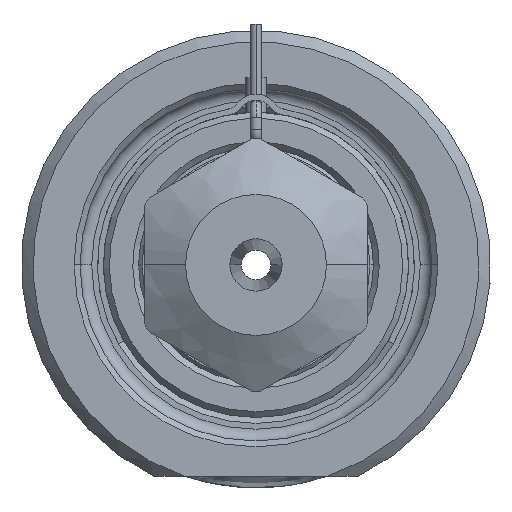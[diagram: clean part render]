
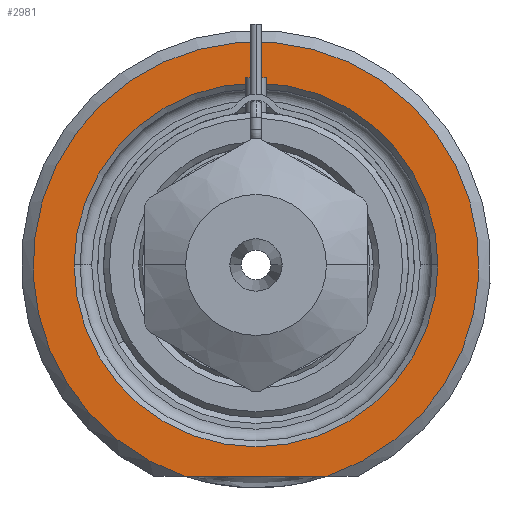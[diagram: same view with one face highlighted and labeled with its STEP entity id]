
A CAD part, front view. The second image highlights one B-rep face of the part: STEP entity #2981.
In plain terms, the highlighted planar face has unit normal (0, -1, 0).
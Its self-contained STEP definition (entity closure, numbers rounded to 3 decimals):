
#1=DIRECTION('',(1.,0.,0.));
#2=VECTOR('',#1,12.166);
#3=CARTESIAN_POINT('',(-6.083,0.,-18.));
#4=LINE('',#3,#2);
#5=CARTESIAN_POINT('',(0.,0.,0.));
#6=DIRECTION('',(0.,1.,0.));
#7=DIRECTION('',(-1.,0.,0.));
#8=AXIS2_PLACEMENT_3D('',#5,#6,#7);
#10=CARTESIAN_POINT('',(0.,0.,0.));
#11=DIRECTION('',(0.,1.,0.));
#12=DIRECTION('',(1.,0.,0.));
#13=AXIS2_PLACEMENT_3D('',#10,#11,#12);
#264=CARTESIAN_POINT('',(0.,0.,0.));
#265=DIRECTION('',(0.,-1.,0.));
#266=DIRECTION('',(0.32,0.,-0.947));
#267=AXIS2_PLACEMENT_3D('',#264,#265,#266);
#2508=CARTESIAN_POINT('',(-15.5,0.,0.));
#2509=CARTESIAN_POINT('',(15.5,0.,0.));
#2510=VERTEX_POINT('',#2508);
#2511=VERTEX_POINT('',#2509);
#2566=CARTESIAN_POINT('',(-6.083,0.,-18.));
#2567=CARTESIAN_POINT('',(6.083,0.,-18.));
#2568=VERTEX_POINT('',#2566);
#2569=VERTEX_POINT('',#2567);
#2964=CARTESIAN_POINT('',(0.,0.,0.));
#2965=DIRECTION('',(0.,-1.,0.));
#2966=DIRECTION('',(1.,0.,0.));
#2967=AXIS2_PLACEMENT_3D('',#2964,#2965,#2966);
#2968=PLANE('',#2967);
#2970=ORIENTED_EDGE('',*,*,#2969,.F.);
#2972=ORIENTED_EDGE('',*,*,#2971,.F.);
#2973=EDGE_LOOP('',(#2970,#2972));
#2974=FACE_OUTER_BOUND('',#2973,.F.);
#2976=ORIENTED_EDGE('',*,*,#2975,.F.);
#2978=ORIENTED_EDGE('',*,*,#2977,.F.);
#2979=EDGE_LOOP('',(#2976,#2978));
#2980=FACE_BOUND('',#2979,.F.);
#2981=ADVANCED_FACE('',(#2974,#2980),#2968,.T.);
#9=CIRCLE('',#8,15.5);
#14=CIRCLE('',#13,15.5);
#268=CIRCLE('',#267,19.);
#2969=EDGE_CURVE('',#2568,#2569,#4,.T.);
#2971=EDGE_CURVE('',#2569,#2568,#268,.T.);
#2975=EDGE_CURVE('',#2510,#2511,#9,.T.);
#2977=EDGE_CURVE('',#2511,#2510,#14,.T.);
